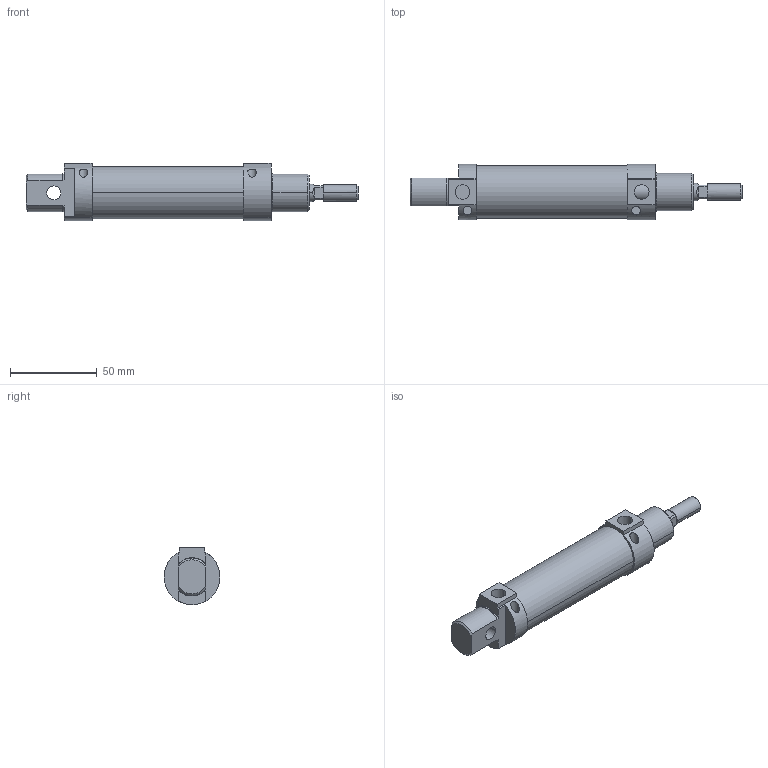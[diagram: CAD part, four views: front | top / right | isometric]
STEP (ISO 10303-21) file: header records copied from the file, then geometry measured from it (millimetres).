
FILE_DESCRIPTION(('CATIA V5 STEP Exchange'),'2;1');
FILE_NAME('D:\stp file for catalog\PSN\25\PSN-25-10-50.stp','2018-04-29T05:02:33+00:00',('none'),('none'),'CATIA Version 5-6 Release 2016','CATIA V5 STEP AP203','none');
FILE_SCHEMA(('CONFIG_CONTROL_DESIGN'));
Length unit declared in the file: millimetre
Products named in the file (1): PSN-25-10-50-00
Assembly tree (2 placements, depth 2):
  PSN-25-10-50-00
    #57
    #2060
Bounding box: 191 x 32 x 33 mm (x, y, z)
Volume: 73205.2 mm3; surface area: 35226.5 mm2
Topology: 2 solids, 2 shells, 104 faces, 246 edges, 160 vertices
Faces by surface type: plane 52, cylinder 46, cone 6
Entity records: 2883 total; most frequent: CARTESIAN_POINT 631, ORIENTED_EDGE 492, DIRECTION 342, EDGE_CURVE 246, AXIS2_PLACEMENT_3D 169, VERTEX_POINT 160, EDGE_LOOP 122, VECTOR 116
